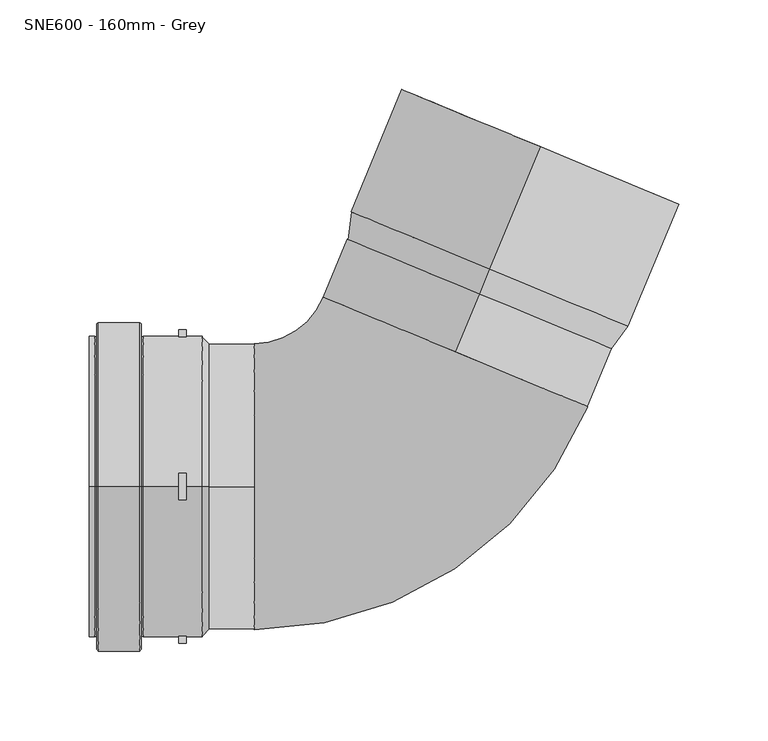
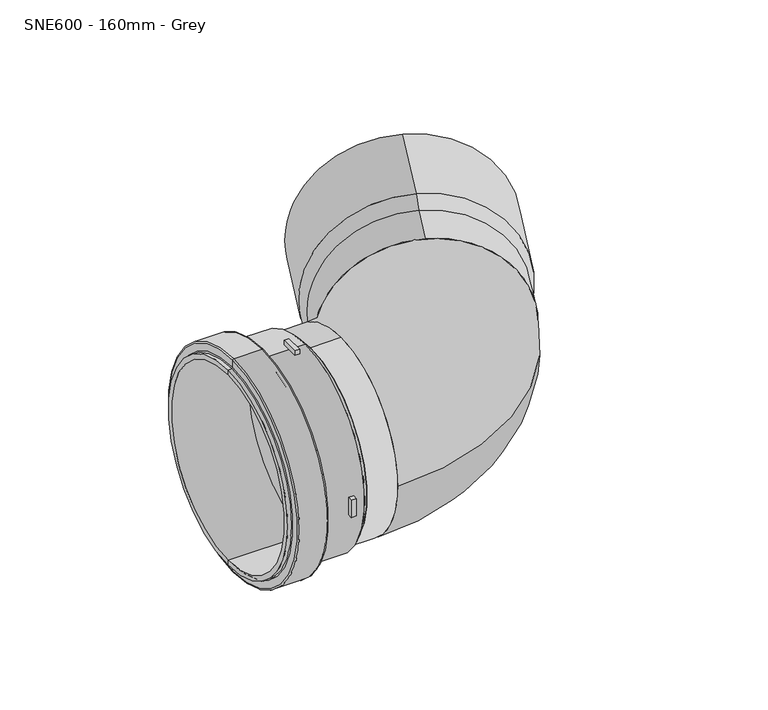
"""IFC4 building model written with IfcOpenShell, lengths in millimetres: pipe fitting geometry, MarleyPlumbingAndDrainage_PipeFitting_OffsetBend67-5 : SNE600 - 160mm - Grey."""

from ifc_helpers import new_model, si_unit, point, frame, origin, origin_2d, place, context, project, spatial, polyline, circle_curve, ellipse_curve, trimmed, segment, composite_curve, outline, extrude, source, transform, mapped, element, save
from ifc_brep_helpers import plane_surface, cylinder_surface, revolved_surface, advanced_brep


def sne600_160mm_grey_be5d63d1(model_context):
    return source(origin(), model_context, "Body", "SolidModel", [
        advanced_brep(
        [(48.7628927, 121.5065979, -80.0), (48.7628927, 121.5065979, 80.0), (77.0814667, 189.8736833, 80.0), (77.0814667, 189.8736833, -80.0), (48.7628927, 121.5065979, 0.0), (29.6287211, 75.3126213, -80.0), (29.6287211, 75.3126213, 80.0), (29.6287211, 75.3126213, 0.0), (43.0226412, 107.6484049, -80.0), (43.0226412, 107.6484049, 80.0), (48.7628927, 121.5065979, -84.0), (48.7628927, 121.5065979, 84.0), (77.0814667, 189.8736833, -84.0), (77.0814667, 189.8736833, 84.0)],
        [
            (0, 1, circle_curve(frame((48.7628927, 121.5065979, 0.0), z_axis=(-0.3826834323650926, -0.9238795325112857, 0.0), x_axis=(0.0, 0.0, 1.0000000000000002)), 80.0)),
            (1, 2),
            (2, 3, circle_curve(frame((77.0814667, 189.8736833, 0.0), z_axis=(0.3826834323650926, 0.9238795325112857, 0.0), x_axis=(0.0, 0.0, 1.0000000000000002)), 80.0)),
            (3, 0),
            (1, 0, circle_curve(frame((48.7628927, 121.5065979, 0.0), z_axis=(-0.3826834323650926, -0.9238795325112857, 0.0), x_axis=(0.0, 0.0, 1.0000000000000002)), 80.0)),
            (3, 2, circle_curve(frame((77.0814667, 189.8736833, 0.0), z_axis=(0.3826834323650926, 0.9238795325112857, 0.0), x_axis=(0.0, 0.0, 1.0000000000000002)), 80.0)),
            (4, 1),
            (0, 4),
            (5, 6, circle_curve(frame((29.6287211, 75.3126213, 0.0), z_axis=(-0.3826834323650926, -0.9238795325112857, 0.0), x_axis=(0.0, 0.0, 1.0000000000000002)), 80.0)),
            (6, 7),
            (7, 5),
            (6, 5, circle_curve(frame((29.6287211, 75.3126213, 0.0), z_axis=(-0.3826834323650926, -0.9238795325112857, 0.0), x_axis=(0.0, 0.0, 1.0000000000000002)), 80.0)),
            (8, 9, circle_curve(frame((43.0226412, 107.6484049, 0.0), z_axis=(-0.3826834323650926, -0.9238795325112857, 0.0), x_axis=(0.0, 0.0, 1.0000000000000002)), 80.0)),
            (9, 6),
            (5, 8),
            (9, 8, circle_curve(frame((43.0226412, 107.6484049, 0.0), z_axis=(-0.3826834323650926, -0.9238795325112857, 0.0), x_axis=(0.0, 0.0, 1.0000000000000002)), 80.0)),
            (10, 11, circle_curve(frame((48.7628927, 121.5065979, 0.0), z_axis=(-0.3826834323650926, -0.9238795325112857, 0.0), x_axis=(0.0, 0.0, 1.0000000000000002)), 84.0)),
            (11, 9),
            (8, 10),
            (11, 10, circle_curve(frame((48.7628927, 121.5065979, 0.0), z_axis=(-0.3826834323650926, -0.9238795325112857, 0.0), x_axis=(0.0, 0.0, 1.0000000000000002)), 84.0)),
            (12, 13, circle_curve(frame((77.0814667, 189.8736833, 0.0), z_axis=(-0.3826834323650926, -0.9238795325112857, 0.0), x_axis=(0.0, 0.0, 1.0000000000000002)), 84.0)),
            (13, 11),
            (10, 12),
            (13, 12, circle_curve(frame((77.0814667, 189.8736833, 0.0), z_axis=(-0.3826834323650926, -0.9238795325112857, 0.0), x_axis=(0.0, 0.0, 1.0000000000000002)), 84.0)),
            (2, 13),
            (12, 3),
        ],
        [
            revolved_surface(polyline([(77.08146665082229, 189.87368332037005, 80.00000000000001), (48.76289265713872, 121.50659791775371, 80.00000000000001)]), (27.2705382, 69.6194643, 0.0), (0.3826834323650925, 0.9238795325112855, 0.0)),
            plane_surface(frame((48.7628927, 121.5065979, 0.0), z_axis=(0.38268343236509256, 0.9238795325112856, 0.0), x_axis=(0.0, 0.0, 1.0))),
            plane_surface(frame((29.6287211, 75.3126213, 0.0), z_axis=(-0.38268343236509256, -0.9238795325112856, 0.0), x_axis=(0.0, 0.0, 1.0))),
            cylinder_surface(frame((27.2705382, 69.6194643, 0.0), z_axis=(0.3826834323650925, 0.9238795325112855, 0.0), x_axis=(0.0, 0.0, 1.0000000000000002)), 80.0),
            revolved_surface(polyline([(43.0226412, 107.6484049, 80.0), (48.7628927, 121.5065979, 84.0)]), (27.2705382, 69.6194643, 0.0), (0.3826834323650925, 0.9238795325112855, 0.0)),
            cylinder_surface(frame((27.2705382, 69.6194643, 0.0), z_axis=(0.3826834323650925, 0.9238795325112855, 0.0), x_axis=(0.0, 0.0, 1.0000000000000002)), 84.0),
            plane_surface(frame((77.0814667, 189.8736833, 0.0), z_axis=(0.38268343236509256, 0.9238795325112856, 0.0), x_axis=(0.0, 0.0, 1.0))),
        ],
        [
            (0, [[1, 2, 3, 4]]),
            (0, [[5, -4, 6, -2]]),
            (1, [[7, -1, 8]]),
            (1, [[-8, -5, -7]]),
            (2, [[9, 10, 11]]),
            (2, [[12, -11, -10]]),
            (3, [[13, 14, -9, 15]]),
            (3, [[16, -15, -12, -14]]),
            (4, [[17, 18, -13, 19]]),
            (4, [[20, -19, -16, -18]]),
            (5, [[21, 22, -17, 23]]),
            (5, [[24, -23, -20, -22]]),
            (6, [[-3, 25, -21, 26]]),
            (6, [[-6, -26, -24, -25]]),
        ],
    ),
        advanced_brep(
        [(-108.0845819, 0.0, 80.0), (-108.0845819, 0.0, -80.0), (-108.0845819, 0.0, 0.0), (-83.0845819, 0.0, 80.0), (-83.0845819, 0.0, -80.0), (-83.0845819, 0.0, 0.0)],
        [
            (0, 1, circle_curve(frame((-108.0845819, 0.0, 0.0), z_axis=(-1.0, 0.0, 0.0), x_axis=(0.0, 0.0, -1.0)), 80.0)),
            (1, 2),
            (2, 0),
            (1, 0, circle_curve(frame((-108.0845819, 0.0, 0.0), z_axis=(-1.0, 0.0, 0.0), x_axis=(0.0, 0.0, -1.0)), 80.0)),
            (3, 4, circle_curve(frame((-83.0845819, 0.0, 0.0), z_axis=(-1.0, 0.0, 0.0), x_axis=(0.0, 0.0, -1.0)), 80.0)),
            (4, 1),
            (0, 3),
            (4, 3, circle_curve(frame((-83.0845819, 0.0, 0.0), z_axis=(-1.0, 0.0, 0.0), x_axis=(0.0, 0.0, -1.0)), 80.0)),
            (5, 4),
            (3, 5),
        ],
        [
            plane_surface(frame((-108.0845819, 0.0, 0.0), z_axis=(-1.0, 0.0, 0.0), x_axis=(0.0, 0.0, -1.0))),
            cylinder_surface(frame((-76.0309549, 0.0, 0.0), z_axis=(1.0, 0.0, 0.0), x_axis=(0.0, 0.0, -1.0)), 80.0),
            plane_surface(frame((-83.0845819, 0.0, 0.0), z_axis=(1.0, 0.0, 0.0), x_axis=(0.0, 0.0, -1.0))),
        ],
        [
            (0, [[1, 2, 3]]),
            (0, [[4, -3, -2]]),
            (1, [[5, 6, -1, 7]]),
            (1, [[8, -7, -4, -6]]),
            (2, [[9, -5, 10]]),
            (2, [[-10, -8, -9]]),
        ],
    ),
        extrude(outline(composite_curve([segment(trimmed(circle_curve(origin_2d(), 84.0), [point((-7.5, -83.6645086))], [point((7.5, -83.6645086))], True, "CARTESIAN"), True, "CONTINUOUS"), segment(polyline([(7.5, -83.6645086), (7.5, -87.6798152)]), True, "CONTINUOUS"), segment(trimmed(circle_curve(origin_2d(), 88.0), [point((7.5, -87.6798152))], [point((-7.5, -87.6798152))], False, "CARTESIAN"), True, "CONTINUOUS"), segment(polyline([(-7.5, -87.6798152), (-7.5, -83.6645086)]), True, "CONTINUOUS")], self_intersect=False)), frame((-125.0845819, 0.0, 0.0), z_axis=(1.0, 0.0, 0.0), x_axis=(0.0, 1.0, 0.0)), (0.0, 0.0, 1.0), 4.0),
        extrude(outline(composite_curve([segment(trimmed(circle_curve(origin_2d(), 84.0), [point((7.5, 83.6645086))], [point((-7.5, 83.6645086))], True, "CARTESIAN"), True, "CONTINUOUS"), segment(polyline([(-7.5, 83.6645086), (-7.5, 87.6798152)]), True, "CONTINUOUS"), segment(trimmed(circle_curve(origin_2d(), 88.0), [point((-7.5, 87.6798152))], [point((7.5, 87.6798152))], False, "CARTESIAN"), True, "CONTINUOUS"), segment(polyline([(7.5, 87.6798152), (7.5, 83.6645086)]), True, "CONTINUOUS")], self_intersect=False)), frame((-125.0845819, 0.0, 0.0), z_axis=(1.0, 0.0, 0.0), x_axis=(0.0, 1.0, 0.0)), (0.0, 0.0, 1.0), 4.0),
        extrude(outline(composite_curve([segment(trimmed(circle_curve(origin_2d(), 84.0), [point((-83.6645086, 7.5))], [point((-83.6645086, -7.5))], True, "CARTESIAN"), True, "CONTINUOUS"), segment(polyline([(-83.6645086, -7.5), (-87.6798152, -7.5)]), True, "CONTINUOUS"), segment(trimmed(circle_curve(origin_2d(), 88.0), [point((-87.6798152, -7.5))], [point((-87.6798152, 7.5))], False, "CARTESIAN"), True, "CONTINUOUS"), segment(polyline([(-87.6798152, 7.5), (-83.6645086, 7.5)]), True, "CONTINUOUS")], self_intersect=False)), frame((-125.0845819, 0.0, 0.0), z_axis=(1.0, 0.0, 0.0), x_axis=(0.0, 1.0, 0.0)), (0.0, 0.0, 1.0), 4.0),
        extrude(outline(composite_curve([segment(trimmed(circle_curve(origin_2d(), 84.0), [point((83.6645086, -7.5))], [point((83.6645086, 7.5))], True, "CARTESIAN"), True, "CONTINUOUS"), segment(polyline([(83.6645086, 7.5), (87.6798152, 7.5)]), True, "CONTINUOUS"), segment(trimmed(circle_curve(origin_2d(), 88.0), [point((87.6798152, 7.5))], [point((87.6798152, -7.5))], False, "CARTESIAN"), True, "CONTINUOUS"), segment(polyline([(87.6798152, -7.5), (83.6645086, -7.5)]), True, "CONTINUOUS")], self_intersect=False)), frame((-125.0845819, 0.0, 0.0), z_axis=(1.0, 0.0, 0.0), x_axis=(0.0, 1.0, 0.0)), (0.0, 0.0, 1.0), 4.0),
        advanced_brep(
        [(-175.0845819, 0.0, 84.0), (-175.0845819, 0.0, -84.0), (-172.091079, 0.0, -84.0), (-172.091079, 0.0, 84.0), (-175.0845819, 0.0, 80.0), (-175.0845819, 0.0, -80.0), (-112.0845819, 0.0, 80.0), (-112.0845819, 0.0, -80.0), (-112.0845819, 0.0, 0.0), (-112.0845819, 0.0, 84.0), (-112.0845819, 0.0, -84.0), (-108.0845819, 0.0, -80.0), (-108.0845819, 0.0, 80.0), (-145.1103303, 0.0, 84.0), (-145.1103303, 0.0, -84.0), (-146.0845819, 0.0, 84.9742516), (-146.0845819, 0.0, -84.9742516), (-146.0845819, 0.0, 91.0187521), (-146.0845819, 0.0, -91.0187521), (-147.0658298, 0.0, 92.0), (-147.0658298, 0.0, -92.0), (-170.0406506, 0.0, 92.0), (-170.0406506, 0.0, -92.0), (-171.0845819, 0.0, 90.9560687), (-171.0845819, 0.0, -90.9560687), (-171.0845819, 0.0, 85.0064971), (-171.0845819, 0.0, -85.0064971), (-108.0845819, 0.0, 0.0)],
        [
            (0, 1, circle_curve(frame((-175.0845819, 0.0, 0.0), z_axis=(1.0, 0.0, 0.0), x_axis=(0.0, 0.0, -1.0)), 84.0)),
            (1, 2),
            (2, 3, circle_curve(frame((-172.091079, 0.0, 0.0), z_axis=(-1.0, 0.0, 0.0), x_axis=(0.0, 0.0, -1.0)), 84.0)),
            (3, 0),
            (1, 0, circle_curve(frame((-175.0845819, 0.0, 0.0), z_axis=(1.0, 0.0, 0.0), x_axis=(0.0, 0.0, -1.0)), 84.0)),
            (3, 2, circle_curve(frame((-172.091079, 0.0, 0.0), z_axis=(-1.0, 0.0, 0.0), x_axis=(0.0, 0.0, -1.0)), 84.0)),
            (4, 5, circle_curve(frame((-175.0845819, 0.0, 0.0), z_axis=(1.0, 0.0, 0.0), x_axis=(0.0, 0.0, -1.0)), 80.0)),
            (5, 1),
            (0, 4),
            (5, 4, circle_curve(frame((-175.0845819, 0.0, 0.0), z_axis=(1.0, 0.0, 0.0), x_axis=(0.0, 0.0, -1.0)), 80.0)),
            (6, 7, circle_curve(frame((-112.0845819, 0.0, 0.0), z_axis=(1.0, 0.0, 0.0), x_axis=(0.0, 0.0, -1.0)), 80.0)),
            (7, 5),
            (4, 6),
            (7, 6, circle_curve(frame((-112.0845819, 0.0, 0.0), z_axis=(1.0, 0.0, 0.0), x_axis=(0.0, 0.0, -1.0)), 80.0)),
            (8, 7),
            (6, 8),
            (9, 10, circle_curve(frame((-112.0845819, 0.0, 0.0), z_axis=(1.0, 0.0, 0.0), x_axis=(0.0, 0.0, -1.0)), 84.0)),
            (10, 11),
            (11, 12, circle_curve(frame((-108.0845819, 0.0, 0.0), z_axis=(-1.0, 0.0, 0.0), x_axis=(0.0, 0.0, -1.0)), 80.0)),
            (12, 9),
            (10, 9, circle_curve(frame((-112.0845819, 0.0, 0.0), z_axis=(1.0, 0.0, 0.0), x_axis=(0.0, 0.0, -1.0)), 84.0)),
            (12, 11, circle_curve(frame((-108.0845819, 0.0, 0.0), z_axis=(-1.0, 0.0, 0.0), x_axis=(0.0, 0.0, -1.0)), 80.0)),
            (13, 14, circle_curve(frame((-145.1103303, 0.0, 0.0), z_axis=(1.0, 0.0, 0.0), x_axis=(0.0, 0.0, -1.0)), 84.0)),
            (14, 10),
            (9, 13),
            (14, 13, circle_curve(frame((-145.1103303, 0.0, 0.0), z_axis=(1.0, 0.0, 0.0), x_axis=(0.0, 0.0, -1.0)), 84.0)),
            (15, 16, circle_curve(frame((-146.0845819, 0.0, 0.0), z_axis=(1.0, 0.0, 0.0), x_axis=(0.0, 0.0, -1.0)), 84.9742516)),
            (16, 14, circle_curve(frame((-145.1103303, 0.0, -84.9742516), z_axis=(0.0, 1.0, 0.0), x_axis=(1.0, 0.0, 0.0)), 0.9742516)),
            (13, 15, circle_curve(frame((-145.1103303, 0.0, 84.9742516), z_axis=(0.0, 1.0, 0.0), x_axis=(1.0, 0.0, 0.0)), 0.9742516)),
            (16, 15, circle_curve(frame((-146.0845819, 0.0, 0.0), z_axis=(1.0, 0.0, 0.0), x_axis=(0.0, 0.0, -1.0)), 84.9742516)),
            (17, 18, circle_curve(frame((-146.0845819, 0.0, 0.0), z_axis=(1.0, 0.0, 0.0), x_axis=(0.0, 0.0, -1.0)), 91.0187521)),
            (18, 16),
            (15, 17),
            (18, 17, circle_curve(frame((-146.0845819, 0.0, 0.0), z_axis=(1.0, 0.0, 0.0), x_axis=(0.0, 0.0, -1.0)), 91.0187521)),
            (19, 20, circle_curve(frame((-147.0658298, 0.0, 0.0), z_axis=(1.0, 0.0, 0.0), x_axis=(0.0, 0.0, -1.0)), 92.0)),
            (20, 18, circle_curve(frame((-147.0658298, 0.0, -91.0187521), z_axis=(0.0, -1.0, 0.0), x_axis=(1.0, 0.0, 0.0)), 0.9812479)),
            (17, 19, circle_curve(frame((-147.0658298, 0.0, 91.0187521), z_axis=(0.0, -1.0, 0.0), x_axis=(1.0, 0.0, 0.0)), 0.9812479)),
            (20, 19, circle_curve(frame((-147.0658298, 0.0, 0.0), z_axis=(1.0, 0.0, 0.0), x_axis=(0.0, 0.0, -1.0)), 92.0)),
            (21, 22, circle_curve(frame((-170.0406506, 0.0, 0.0), z_axis=(1.0, 0.0, 0.0), x_axis=(0.0, 0.0, -1.0)), 92.0)),
            (22, 20),
            (19, 21),
            (22, 21, circle_curve(frame((-170.0406506, 0.0, 0.0), z_axis=(1.0, 0.0, 0.0), x_axis=(0.0, 0.0, -1.0)), 92.0)),
            (23, 24, circle_curve(frame((-171.0845819, 0.0, 0.0), z_axis=(1.0, 0.0, 0.0), x_axis=(0.0, 0.0, -1.0)), 90.9560687)),
            (24, 22, circle_curve(frame((-170.0406506, 0.0, -90.9560687), z_axis=(0.0, -1.0, 0.0), x_axis=(1.0, 0.0, 0.0)), 1.0439313)),
            (21, 23, circle_curve(frame((-170.0406506, 0.0, 90.9560687), z_axis=(0.0, -1.0, 0.0), x_axis=(1.0, 0.0, 0.0)), 1.0439313)),
            (24, 23, circle_curve(frame((-171.0845819, 0.0, 0.0), z_axis=(1.0, 0.0, 0.0), x_axis=(0.0, 0.0, -1.0)), 90.9560687)),
            (25, 26, circle_curve(frame((-171.0845819, 0.0, 0.0), z_axis=(1.0, 0.0, 0.0), x_axis=(0.0, 0.0, -1.0)), 85.0064971)),
            (26, 24),
            (23, 25),
            (26, 25, circle_curve(frame((-171.0845819, 0.0, 0.0), z_axis=(1.0, 0.0, 0.0), x_axis=(0.0, 0.0, -1.0)), 85.0064971)),
            (2, 26, circle_curve(frame((-172.091079, 0.0, -85.0064971), z_axis=(0.0, 1.0, 0.0), x_axis=(1.0, 0.0, 0.0)), 1.0064971)),
            (25, 3, circle_curve(frame((-172.091079, 0.0, 85.0064971), z_axis=(0.0, 1.0, 0.0), x_axis=(1.0, 0.0, 0.0)), 1.0064971)),
            (11, 27),
            (27, 12),
        ],
        [
            cylinder_surface(frame((-215.0845819, 0.0, 0.0), z_axis=(-1.0, 0.0, 0.0), x_axis=(0.0, 0.0, -1.0)), 84.0),
            plane_surface(frame((-175.0845819, 0.0, 0.0), z_axis=(-1.0, 0.0, 0.0), x_axis=(0.0, 0.0, -1.0))),
            revolved_surface(polyline([(-175.0845819, 0.0, -80.0), (-112.0845819, 0.0, -80.0)]), (-215.0845819, 0.0, 0.0), (-1.0, 0.0, 0.0)),
            plane_surface(frame((-112.0845819, 0.0, 0.0), z_axis=(-1.0, 0.0, 0.0), x_axis=(0.0, 0.0, -1.0))),
            revolved_surface(polyline([(-108.0845819, 0.0, -80.0), (-112.0845819, 0.0, -84.0)]), (-215.0845819, 0.0, 0.0), (-1.0, 0.0, 0.0)),
            revolved_surface(trimmed(ellipse_curve(frame((-145.1103303, 0.0, -84.9742516), z_axis=(0.0, -1.0, 0.0), x_axis=(1.0, 0.0, 0.0)), 0.9742516, 0.9742516), [point((-145.1103303, 0.0, -84.0))], [point((-146.0845819, 0.0, -84.9742516))], True, "CARTESIAN"), (-215.0845819, 0.0, 0.0), (-1.0, 0.0, 0.0)),
            plane_surface(frame((-146.0845819, 0.0, 0.0), z_axis=(1.0, 0.0, 0.0), x_axis=(0.0, 0.0, -1.0))),
            revolved_surface(trimmed(ellipse_curve(frame((-147.0658298, 0.0, -91.0187521), z_axis=(0.0, 1.0, 0.0), x_axis=(1.0, 0.0, 0.0)), 0.9812479, 0.9812479), [point((-146.0845819, 0.0, -91.0187521))], [point((-147.0658298, 0.0, -92.0))], True, "CARTESIAN"), (-215.0845819, 0.0, 0.0), (-1.0, 0.0, 0.0)),
            cylinder_surface(frame((-215.0845819, 0.0, 0.0), z_axis=(-1.0, 0.0, 0.0), x_axis=(0.0, 0.0, -1.0)), 92.0),
            revolved_surface(trimmed(ellipse_curve(frame((-170.0406506, 0.0, -90.9560687), z_axis=(0.0, 1.0, 0.0), x_axis=(1.0, 0.0, 0.0)), 1.0439313, 1.0439313), [point((-170.0406506, 0.0, -92.0))], [point((-171.0845819, 0.0, -90.9560687))], True, "CARTESIAN"), (-215.0845819, 0.0, 0.0), (-1.0, 0.0, 0.0)),
            plane_surface(frame((-171.0845819, 0.0, 0.0), z_axis=(-1.0, 0.0, 0.0), x_axis=(0.0, 0.0, -1.0))),
            revolved_surface(trimmed(ellipse_curve(frame((-172.091079, 0.0, -85.0064971), z_axis=(0.0, -1.0, 0.0), x_axis=(1.0, 0.0, 0.0)), 1.0064971, 1.0064971), [point((-171.0845819, 0.0, -85.0064971))], [point((-172.091079, 0.0, -84.0))], True, "CARTESIAN"), (-215.0845819, 0.0, 0.0), (-1.0, 0.0, 0.0)),
            plane_surface(frame((-108.0845819, 0.0, 0.0), z_axis=(1.0, 0.0, 0.0), x_axis=(0.0, 0.0, -1.0))),
        ],
        [
            (0, [[1, 2, 3, 4]]),
            (0, [[5, -4, 6, -2]]),
            (1, [[7, 8, -1, 9]]),
            (1, [[10, -9, -5, -8]]),
            (2, [[11, 12, -7, 13]]),
            (2, [[14, -13, -10, -12]]),
            (3, [[15, -11, 16]]),
            (3, [[-16, -14, -15]]),
            (4, [[17, 18, 19, 20]]),
            (4, [[21, -20, 22, -18]]),
            (0, [[23, 24, -17, 25]]),
            (0, [[26, -25, -21, -24]]),
            (5, [[27, 28, -23, 29]]),
            (5, [[30, -29, -26, -28]]),
            (6, [[31, 32, -27, 33]]),
            (6, [[34, -33, -30, -32]]),
            (7, [[35, 36, -31, 37]]),
            (7, [[38, -37, -34, -36]]),
            (8, [[39, 40, -35, 41]]),
            (8, [[42, -41, -38, -40]]),
            (9, [[43, 44, -39, 45]]),
            (9, [[46, -45, -42, -44]]),
            (10, [[47, 48, -43, 49]]),
            (10, [[50, -49, -46, -48]]),
            (11, [[-3, 51, -47, 52]]),
            (11, [[-6, -52, -50, -51]]),
            (12, [[-19, 53, 54]]),
            (12, [[-22, -54, -53]]),
        ],
    ),
        advanced_brep(
        [(-83.0845819, -80.0, 0.0), (-83.0845819, 80.0, 0.0), (103.5390837, 44.6979467, 0.0), (-44.2816415, 105.9272958, 0.0)],
        [
            (0, 1, circle_curve(frame((-83.0845819, 0.0, 0.0), z_axis=(-1.0, 0.0, 0.0), x_axis=(0.0, 1.0, 0.0)), 80.0)),
            (1, 0, circle_curve(frame((-83.0845819, 0.0, 0.0), z_axis=(-1.0, 0.0, 0.0), x_axis=(0.0, 1.0, 0.0)), 80.0)),
            (2, 3, circle_curve(frame((29.6287211, 75.3126213, 0.0), z_axis=(0.3826834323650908, 0.9238795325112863, 0.0), x_axis=(-0.9238795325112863, 0.3826834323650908, 0.0)), 80.0)),
            (3, 2, circle_curve(frame((29.6287211, 75.3126213, 0.0), z_axis=(0.3826834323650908, 0.9238795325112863, 0.0), x_axis=(-0.9238795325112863, 0.3826834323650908, 0.0)), 80.0)),
            (3, 1, circle_curve(frame((-83.0845819, 122.0, 0.0), z_axis=(0.0, 0.0, -1.0), x_axis=(0.0, -1.0, 0.0)), 42.0)),
            (0, 2, circle_curve(frame((-83.0845819, 122.0, 0.0), z_axis=(0.0, 0.0, 1.0), x_axis=(0.0, -1.0, 0.0)), 202.0)),
        ],
        [
            plane_surface(frame((-83.0845819, 0.0, 0.0), z_axis=(-1.0, 0.0, 0.0), x_axis=(0.0, 0.0, 1.0))),
            plane_surface(frame((29.6287211, 75.3126213, 0.0), z_axis=(0.3826834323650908, 0.9238795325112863, 0.0), x_axis=(0.0, 0.0, 1.0))),
            revolved_surface(trimmed(ellipse_curve(frame((-83.0845819, 0.0, 0.0), z_axis=(-1.0, 0.0, 0.0), x_axis=(0.0, 1.0, 0.0)), 80.0, 80.0), [point((-83.0845819, -80.0, 0.0))], [point((-83.0845819, 80.0, 0.0))], True, "CARTESIAN"), (-83.0845819, 122.0, 0.0), (0.0, 0.0, 1.0)),
            revolved_surface(trimmed(ellipse_curve(frame((-83.0845819, 0.0, 0.0), z_axis=(-1.0, 0.0, 0.0), x_axis=(0.0, 1.0, 0.0)), 80.0, 80.0), [point((-83.0845819, 80.0, 0.0))], [point((-83.0845819, -80.0, 0.0))], True, "CARTESIAN"), (-83.0845819, 122.0, 0.0), (0.0, 0.0, 1.0)),
        ],
        [
            (0, [[1, 2]]),
            (1, [[3, 4]]),
            (2, [[5, -1, 6, -4]]),
            (3, [[-6, -2, -5, -3]]),
        ],
    ),
    ])


if __name__ == "__main__":
    model = new_model("IFC4")
    model_context = context("Model", 3, world=origin())
    ifc_project = project(units=[si_unit("LENGTHUNIT", "METRE", prefix="MILLI")], contexts=[model_context])
    site = spatial("IfcSite", under=ifc_project)
    building = spatial("IfcBuilding", under=site)
    placement = place(None, origin())
    sne600_160mm_grey_shape = sne600_160mm_grey_be5d63d1(model_context)
    element("IfcPipeFitting", 1, ObjectType="MarleyPlumbingAndDrainage_PipeFitting_OffsetBend67-5 : SNE600 - 160mm - Grey", at=placement, inside=building, context=model_context, shape_type="MappedRepresentation", body=[
        mapped(sne600_160mm_grey_shape, transform((0.0, 0.0, 0.0), x_axis=(1.0, 0.0, 0.0), y_axis=(0.0, 1.0, 0.0), z_axis=(0.0, 0.0, 1.0))),
    ])
    save(model, "model.ifc")
